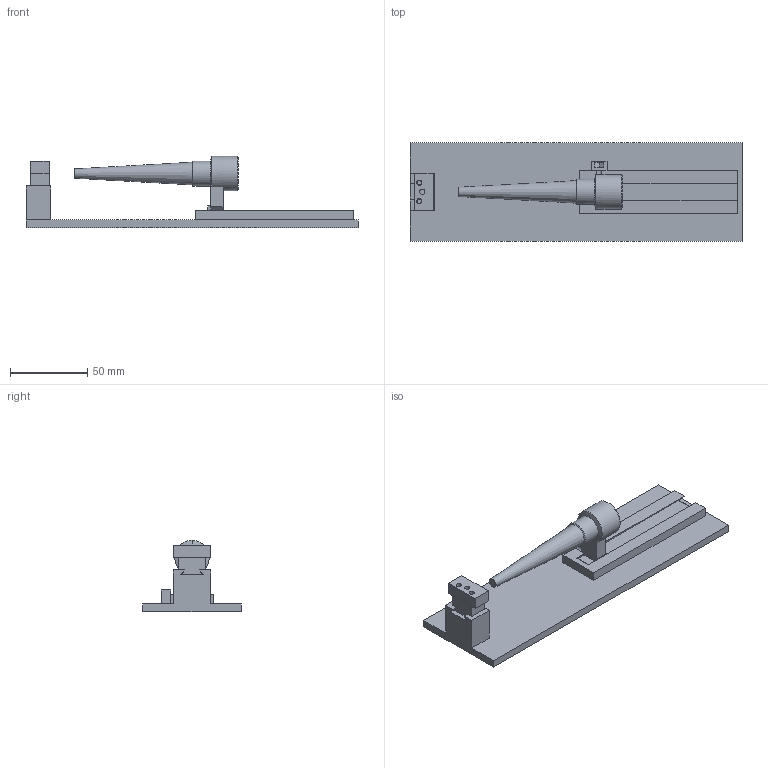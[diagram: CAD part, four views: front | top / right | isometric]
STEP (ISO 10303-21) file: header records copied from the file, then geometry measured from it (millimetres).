
FILE_DESCRIPTION(('FreeCAD Model'),'2;1');
FILE_NAME('Open CASCADE Shape Model','2026-10-21T17:08:53',('FreeCAD'),( 'FreeCAD'),'Open CASCADE STEP processor 7.8','FreeCAD','Unknown');
FILE_SCHEMA(('AUTOMOTIVE_DESIGN { 1 0 10303 214 1 1 1 1 }'));
Length unit declared in the file: millimetre
Products named in the file (1): Open CASCADE STEP translator 7.8 1
Bounding box: 214.96 x 64 x 46.12 mm (x, y, z)
Volume: 108344.1 mm3; surface area: 45580.7 mm2
Topology: 4 solids, 4 shells, 97 faces, 244 edges, 160 vertices
Faces by surface type: plane 79, cylinder 12, cone 6
Full cylindrical faces by diameter (mm): 2.8 x2, 3.3 x2, 3.4 x4, 16.25 x1, 22.25 x1
Entity records: 2898 total; most frequent: CARTESIAN_POINT 502, ORIENTED_EDGE 488, DIRECTION 476, EDGE_CURVE 244, LINE 208, VECTOR 208, VERTEX_POINT 160, AXIS2_PLACEMENT_3D 134
